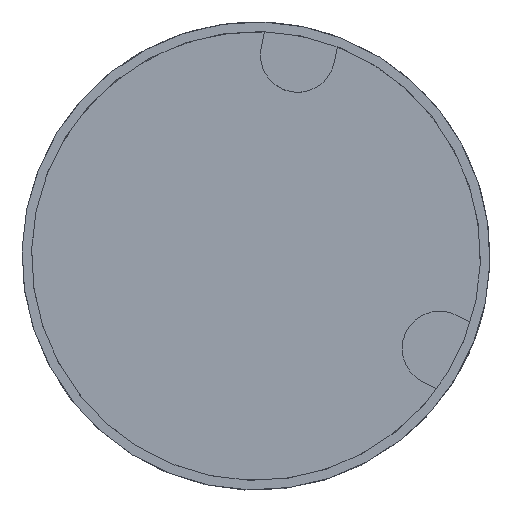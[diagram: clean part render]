
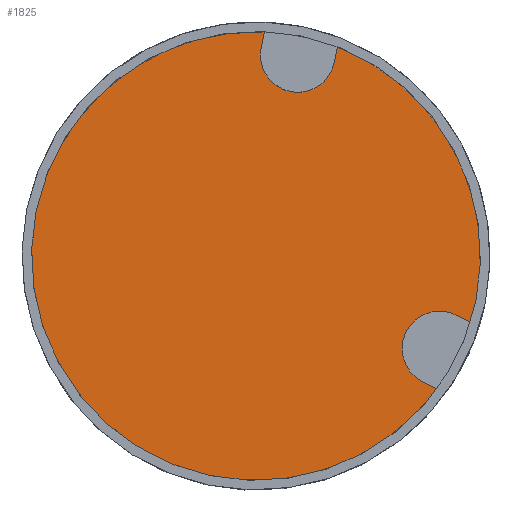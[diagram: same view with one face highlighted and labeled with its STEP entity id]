
A CAD part, top view. The second image highlights one B-rep face of the part: STEP entity #1825.
In plain terms, the highlighted planar face has unit normal (0, 0, 1) as drawn and (0, 0, -1) by its records, which use the part's own axes.
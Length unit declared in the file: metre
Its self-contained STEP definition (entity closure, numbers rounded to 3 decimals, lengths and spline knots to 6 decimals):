
#42 = VERTEX_POINT ( 'NONE', #3445 ) ;
#116 = DIRECTION ( 'NONE',  ( 0., -1., 0. ) ) ;
#147 = AXIS2_PLACEMENT_3D ( 'NONE', #2116, #682, #3595 ) ;
#178 = CARTESIAN_POINT ( 'NONE',  ( -0.023782, -0.02378, 0.0182 ) ) ;
#211 = DIRECTION ( 'NONE',  ( 1., 0., 0. ) ) ;
#246 = FACE_OUTER_BOUND ( 'NONE', #1482, .T. ) ;
#250 = ORIENTED_EDGE ( 'NONE', *, *, #1934, .T. ) ;
#320 = ORIENTED_EDGE ( 'NONE', *, *, #2371, .F. ) ;
#431 = AXIS2_PLACEMENT_3D ( 'NONE', #2277, #2304, #566 ) ;
#445 = EDGE_CURVE ( 'NONE', #968, #1758, #3666, .T. ) ;
#446 = ORIENTED_EDGE ( 'NONE', *, *, #445, .T. ) ;
#566 = DIRECTION ( 'NONE',  ( -1., 0., 0. ) ) ;
#588 = VECTOR ( 'NONE', #2124, 1. ) ;
#627 = LINE ( 'NONE', #1532, #588 ) ;
#682 = DIRECTION ( 'NONE',  ( 0., 0., 1. ) ) ;
#720 = DIRECTION ( 'NONE',  ( 0., 0., -1. ) ) ;
#742 = VERTEX_POINT ( 'NONE', #2075 ) ;
#762 = EDGE_CURVE ( 'NONE', #742, #3416, #3065, .T. ) ;
#878 = ORIENTED_EDGE ( 'NONE', *, *, #2886, .F. ) ;
#954 = VECTOR ( 'NONE', #116, 1. ) ;
#968 = VERTEX_POINT ( 'NONE', #1923 ) ;
#1039 = ORIENTED_EDGE ( 'NONE', *, *, #762, .F. ) ;
#1042 = CIRCLE ( 'NONE', #431, 0.0235 ) ;
#1046 = VERTEX_POINT ( 'NONE', #3634 ) ;
#1067 = AXIS2_PLACEMENT_3D ( 'NONE', #2953, #1196, #3253 ) ;
#1073 = PLANE ( 'NONE',  #3343 ) ;
#1117 = CARTESIAN_POINT ( 'NONE',  ( -0.0039, 0.0215, 0.0182 ) ) ;
#1143 = VERTEX_POINT ( 'NONE', #2250 ) ;
#1196 = DIRECTION ( 'NONE',  ( 0., 0., 1. ) ) ;
#1225 = ORIENTED_EDGE ( 'NONE', *, *, #1782, .F. ) ;
#1363 = CARTESIAN_POINT ( 'NONE',  ( 0., 0., 0.0182 ) ) ;
#1394 = DIRECTION ( 'NONE',  ( 1., 0., 0. ) ) ;
#1470 = AXIS2_PLACEMENT_3D ( 'NONE', #1473, #1745, #3778 ) ;
#1473 = CARTESIAN_POINT ( 'NONE',  ( 0., 0., 0.0182 ) ) ;
#1481 = EDGE_CURVE ( 'NONE', #42, #968, #2038, .T. ) ;
#1482 = EDGE_LOOP ( 'NONE', ( #3243, #446, #3019, #878, #1039, #250, #3208, #2365, #320, #1225, #3722 ) ) ;
#1510 = EDGE_CURVE ( 'NONE', #42, #2142, #2454, .T. ) ;
#1532 = CARTESIAN_POINT ( 'NONE',  ( -0.021777, -0.001797, 0.0182 ) ) ;
#1573 = VERTEX_POINT ( 'NONE', #1837 ) ;
#1599 = DIRECTION ( 'NONE',  ( 0., 0., 1. ) ) ;
#1648 = CARTESIAN_POINT ( 'NONE',  ( -0.021375, -0.009765, 0.0182 ) ) ;
#1675 = CARTESIAN_POINT ( 'NONE',  ( -0.0235, 0., 0.0182 ) ) ;
#1678 = EDGE_CURVE ( 'NONE', #1573, #1758, #627, .T. ) ;
#1745 = DIRECTION ( 'NONE',  ( 0., 0., 1. ) ) ;
#1758 = VERTEX_POINT ( 'NONE', #1891 ) ;
#1782 = EDGE_CURVE ( 'NONE', #2142, #1143, #2966, .T. ) ;
#1825 = ADVANCED_FACE ( 'NONE', ( #246 ), #1073, .F. ) ;
#1837 = CARTESIAN_POINT ( 'NONE',  ( -0.023394, -0.002231, 0.0182 ) ) ;
#1849 = CIRCLE ( 'NONE', #1470, 0.0235 ) ;
#1871 = CARTESIAN_POINT ( 'NONE',  ( 0.0039, 0.022337, 0.0182 ) ) ;
#1891 = CARTESIAN_POINT ( 'NONE',  ( -0.021777, -0.001797, 0.0182 ) ) ;
#1923 = CARTESIAN_POINT ( 'NONE',  ( -0.016867, -0.005565, 0.0182 ) ) ;
#1928 = EDGE_CURVE ( 'NONE', #1046, #2323, #3706, .T. ) ;
#1934 = EDGE_CURVE ( 'NONE', #742, #3442, #2923, .T. ) ;
#1935 = DIRECTION ( 'NONE',  ( 0., 0., 1. ) ) ;
#1957 = VECTOR ( 'NONE', #3366, 1. ) ;
#2038 = CIRCLE ( 'NONE', #2609, 0.0039 ) ;
#2075 = CARTESIAN_POINT ( 'NONE',  ( -0.0039, 0.023174, 0.0182 ) ) ;
#2116 = CARTESIAN_POINT ( 'NONE',  ( -0.020767, -0.005565, 0.0182 ) ) ;
#2124 = DIRECTION ( 'NONE',  ( 0.966, 0.259, 0. ) ) ;
#2142 = VERTEX_POINT ( 'NONE', #1648 ) ;
#2167 = CARTESIAN_POINT ( 'NONE',  ( 0., 0.0215, 0.0182 ) ) ;
#2204 = CARTESIAN_POINT ( 'NONE',  ( -0.020767, -0.005565, 0.0182 ) ) ;
#2208 = DIRECTION ( 'NONE',  ( 0., 0., 1. ) ) ;
#2250 = CARTESIAN_POINT ( 'NONE',  ( 0.0235, 0., 0.0182 ) ) ;
#2277 = CARTESIAN_POINT ( 'NONE',  ( 0., 0., 0.0182 ) ) ;
#2304 = DIRECTION ( 'NONE',  ( 0., 0., 1. ) ) ;
#2318 = VECTOR ( 'NONE', #2777, 1. ) ;
#2323 = VERTEX_POINT ( 'NONE', #3493 ) ;
#2365 = ORIENTED_EDGE ( 'NONE', *, *, #1928, .F. ) ;
#2371 = EDGE_CURVE ( 'NONE', #1143, #1046, #1042, .T. ) ;
#2454 = LINE ( 'NONE', #2501, #1957 ) ;
#2501 = CARTESIAN_POINT ( 'NONE',  ( -0.019758, -0.009332, 0.0182 ) ) ;
#2609 = AXIS2_PLACEMENT_3D ( 'NONE', #2204, #1599, #3110 ) ;
#2777 = DIRECTION ( 'NONE',  ( 0., -1., 0. ) ) ;
#2817 = DIRECTION ( 'NONE',  ( -1., 0., 0. ) ) ;
#2886 = EDGE_CURVE ( 'NONE', #3416, #1573, #1849, .T. ) ;
#2923 = LINE ( 'NONE', #3049, #2318 ) ;
#2953 = CARTESIAN_POINT ( 'NONE',  ( 0., 0., 0.0182 ) ) ;
#2966 = CIRCLE ( 'NONE', #3393, 0.0235 ) ;
#2978 = CIRCLE ( 'NONE', #3120, 0.0039 ) ;
#3019 = ORIENTED_EDGE ( 'NONE', *, *, #1678, .F. ) ;
#3049 = CARTESIAN_POINT ( 'NONE',  ( -0.0039, 0.022337, 0.0182 ) ) ;
#3065 = CIRCLE ( 'NONE', #1067, 0.0235 ) ;
#3110 = DIRECTION ( 'NONE',  ( 1., 0., 0. ) ) ;
#3120 = AXIS2_PLACEMENT_3D ( 'NONE', #2167, #720, #1394 ) ;
#3208 = ORIENTED_EDGE ( 'NONE', *, *, #3729, .F. ) ;
#3243 = ORIENTED_EDGE ( 'NONE', *, *, #1481, .T. ) ;
#3253 = DIRECTION ( 'NONE',  ( -1., 0., 0. ) ) ;
#3343 = AXIS2_PLACEMENT_3D ( 'NONE', #178, #1935, #211 ) ;
#3366 = DIRECTION ( 'NONE',  ( -0.966, -0.259, 0. ) ) ;
#3393 = AXIS2_PLACEMENT_3D ( 'NONE', #1363, #2208, #2817 ) ;
#3416 = VERTEX_POINT ( 'NONE', #1675 ) ;
#3442 = VERTEX_POINT ( 'NONE', #1117 ) ;
#3445 = CARTESIAN_POINT ( 'NONE',  ( -0.019758, -0.009332, 0.0182 ) ) ;
#3493 = CARTESIAN_POINT ( 'NONE',  ( 0.0039, 0.0215, 0.0182 ) ) ;
#3595 = DIRECTION ( 'NONE',  ( 1., 0., 0. ) ) ;
#3634 = CARTESIAN_POINT ( 'NONE',  ( 0.0039, 0.023174, 0.0182 ) ) ;
#3666 = CIRCLE ( 'NONE', #147, 0.0039 ) ;
#3706 = LINE ( 'NONE', #1871, #954 ) ;
#3722 = ORIENTED_EDGE ( 'NONE', *, *, #1510, .F. ) ;
#3729 = EDGE_CURVE ( 'NONE', #2323, #3442, #2978, .T. ) ;
#3778 = DIRECTION ( 'NONE',  ( -1., 0., 0. ) ) ;
